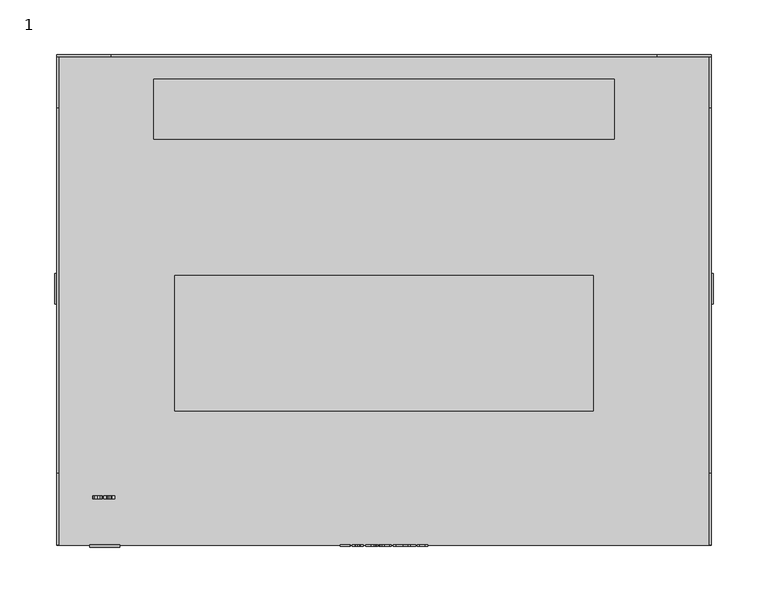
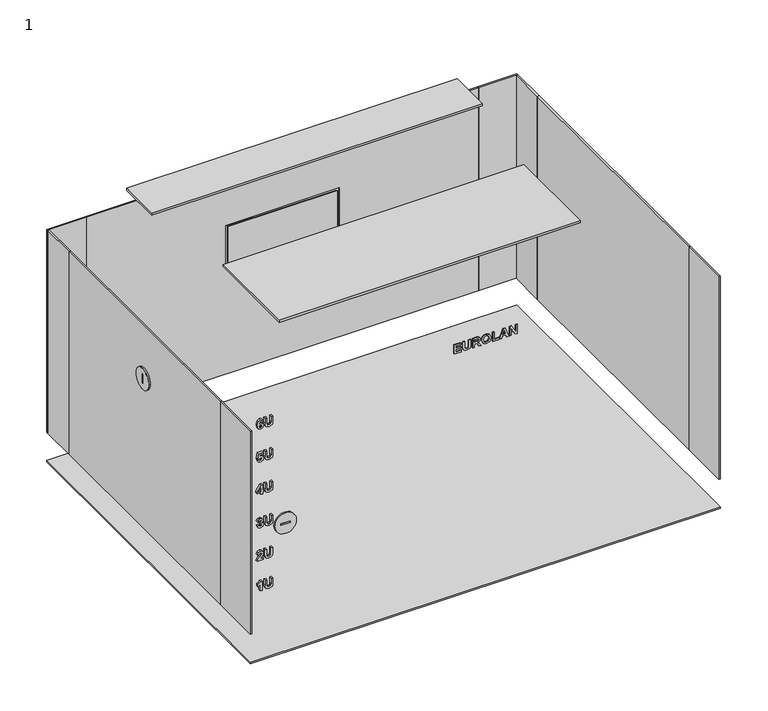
"""IFC4 building model written with IfcOpenShell, lengths in millimetres: proxy geometry, 1 : 6U 450мм металлическая дверь."""

from ifc_helpers import new_model, si_unit, point, frame, frame_2d, origin, origin_with_axes, place, context, project, spatial, polyline, circle_curve, trimmed, segment, composite_curve, outline, extrude, source, transform, mapped, element, save


def proxy_1_44ba977f(model_context):
    return source(origin(), model_context, "Body", "SweptSolid", [
        extrude(outline(polyline([(328.0, -40.3245382), (328.0, -30.9964522), (330.1376864, -30.9964522), (330.1376864, -37.9925167), (333.2470483, -37.9925167), (333.2470483, -31.5794576), (335.3847347, -31.5794576), (335.3847347, -37.9925167), (338.1054264, -37.9925167), (338.1054264, -31.1907874), (340.2431128, -31.1907874), (340.2431128, -40.3245382), (328.0, -40.3245382)])), frame((0.0, -226.0, 0.0), z_axis=(0.0, 1.0, 0.0), x_axis=(0.0, 0.0, 1.0)), (0.0, 0.0, 1.0), 1.0),
        extrude(outline(polyline([(340.2431128, -29.053101), (333.7207402, -29.053101), (330.6174512, -28.8071456), (329.2601418, -28.1026808), (328.2095176, -26.6482039), (327.8056649, -23.9487675), (328.1761162, -21.5575346), (329.173602, -20.0954664), (330.7085458, -19.3454543), (333.8209443, -19.1420097), (340.2431128, -19.1420097), (340.2431128, -21.4740312), (333.4960402, -21.4740312), (331.4236383, -21.5924541), (330.3714958, -22.2923642), (329.9433512, -24.0216432), (330.3973059, -25.7979877), (331.5982363, -26.6208755), (333.6387551, -26.7210795), (340.2431128, -26.7210795), (340.2431128, -29.053101)])), frame((0.0, -226.0, 0.0), z_axis=(0.0, 1.0, 0.0), x_axis=(0.0, 0.0, 1.0)), (0.0, 0.0, 1.0), 1.0),
        extrude(outline(polyline([(328.0, -16.8099882), (328.0, -14.4779667), (333.0527132, -13.9435451), (332.9251808, -12.6120459), (332.4560437, -11.8164865), (330.7966039, -10.4242575), (328.0, -8.6509495), (328.0, -5.9272213), (330.3745323, -7.424209), (332.3512849, -8.7238252), (333.3715443, -9.9475291), (334.5071902, -7.6625732), (336.7936644, -6.8988969), (338.7339791, -7.4272455), (339.9121358, -8.8361752), (340.2431128, -11.6601074), (340.2431128, -16.8099882), (328.0, -16.8099882)]), holes=[polyline([(335.1903996, -14.4779667), (338.1054264, -14.4779667), (338.1054264, -12.4495939), (338.0659521, -10.5548264), (337.6150339, -9.5770778), (336.6782779, -9.2309184), (335.817434, -9.4935744), (335.3315962, -10.2223312), (335.1903996, -12.5558709), (335.1903996, -14.4779667)])]), frame((0.0, -226.0, 0.0), z_axis=(0.0, 1.0, 0.0), x_axis=(0.0, 0.0, 1.0)), (0.0, 0.0, 1.0), 1.0),
        extrude(outline(polyline([(334.0456442, -4.9555457), (329.4681411, -3.3735363), (327.8056649, 0.8896905), (329.4757323, 5.1225524), (334.106374, 6.7045618), (338.7628257, 5.1104065), (340.4374479, 0.8593256), (339.9546466, -1.7338337), (338.8539203, -3.2869964), (337.1792981, -4.4059416), (334.0456442, -4.9555457)]), holes=[polyline([(334.1306659, -2.6235242), (337.2612832, -1.6579215), (338.2997616, 0.886654), (337.2734292, 3.4190836), (334.1640672, 4.3725403), (330.9985302, 3.3932735), (329.9433512, 0.886654), (331.0061214, -1.6321114), (334.1306659, -2.6235242)])]), frame((0.0, -226.0, 0.0), z_axis=(0.0, 1.0, 0.0), x_axis=(0.0, 0.0, 1.0)), (0.0, 0.0, 1.0), 1.0),
        extrude(outline(polyline([(328.0, 8.647913), (328.0, 17.1986585), (330.1376864, 17.1986585), (330.1376864, 10.9799345), (340.2431128, 10.9799345), (340.2431128, 8.647913), (328.0, 8.647913)])), frame((0.0, -226.0, 0.0), z_axis=(0.0, 1.0, 0.0), x_axis=(0.0, 0.0, 1.0)), (0.0, 0.0, 1.0), 1.0),
        extrude(outline(polyline([(328.0, 29.2474361), (340.2431128, 24.7352175), (340.2431128, 22.2513717), (328.0, 17.7816638), (328.0, 20.2655096), (330.7206917, 21.2128934), (330.7206917, 25.837462), (328.0, 26.7969917), (328.0, 29.2474361)]), holes=[polyline([(332.8583781, 25.0904864), (332.8583781, 21.959869), (337.3280859, 23.51455), (332.8583781, 25.0904864)])]), frame((0.0, -226.0, 0.0), z_axis=(0.0, 1.0, 0.0), x_axis=(0.0, 0.0, 1.0)), (0.0, 0.0, 1.0), 1.0),
        extrude(outline(polyline([(328.0, 30.4134469), (328.0, 32.7454684), (336.1195644, 32.7454684), (328.0, 37.8042546), (328.0, 40.3245382), (340.2431128, 40.3245382), (340.2431128, 37.9925167), (332.002089, 37.9925167), (340.2431128, 32.8578184), (340.2431128, 30.4134469), (328.0, 30.4134469)])), frame((0.0, -226.0, 0.0), z_axis=(0.0, 1.0, 0.0), x_axis=(0.0, 0.0, 1.0)), (0.0, 0.0, 1.0), 1.0),
        extrude(outline(composite_curve([segment(trimmed(circle_curve(frame_2d((9.997621, 243.4611412)), 14.0), [point((-4.002379, 243.4611412))], [point((23.997621, 243.4611412))], False, "CARTESIAN"), True, "CONTINUOUS"), segment(trimmed(circle_curve(frame_2d((9.997621, 243.4611412)), 14.0), [point((23.997621, 243.4611412))], [point((-4.002379, 243.4611412))], False, "CARTESIAN"), True, "CONTINUOUS")], self_intersect=False), holes=[polyline([(11.0, 249.5), (9.0, 249.5), (9.0, 237.5), (11.0, 237.5), (11.0, 249.5)])]), frame((-302.0, 0.0, 0.0), z_axis=(1.0, 0.0, 0.0), x_axis=(0.0, 1.0, 0.0)), (0.0, 0.0, 1.0), 2.0),
        extrude(outline(composite_curve([segment(trimmed(circle_curve(frame_2d((9.997621, 243.4611412)), 14.0), [point((-4.002379, 243.4611412))], [point((23.997621, 243.4611412))], False, "CARTESIAN"), True, "CONTINUOUS"), segment(trimmed(circle_curve(frame_2d((9.997621, 243.4611412)), 14.0), [point((23.997621, 243.4611412))], [point((-4.002379, 243.4611412))], False, "CARTESIAN"), True, "CONTINUOUS")], self_intersect=False), holes=[polyline([(11.0, 249.5), (9.0, 249.5), (9.0, 237.5), (11.0, 237.5), (11.0, 249.5)])]), frame((300.0, 0.0, 0.0), z_axis=(1.0, 0.0, 0.0), x_axis=(0.0, 1.0, 0.0)), (0.0, 0.0, 1.0), 2.0),
        extrude(outline(composite_curve([segment(trimmed(circle_curve(frame_2d((176.0, -256.0)), 13.7647373), [point((176.0, -242.2352627))], [point((176.0, -269.7647373))], False, "CARTESIAN"), True, "CONTINUOUS"), segment(trimmed(circle_curve(frame_2d((176.0, -256.0)), 13.7647373), [point((176.0, -269.7647373))], [point((176.0, -242.2352627))], False, "CARTESIAN"), True, "CONTINUOUS")], self_intersect=False), holes=[polyline([(177.0, -250.0), (175.0, -250.0), (175.0, -262.0), (177.0, -262.0), (177.0, -250.0)])]), frame((0.0, -227.0, 0.0), z_axis=(0.0, 1.0, 0.0), x_axis=(0.0, 0.0, 1.0)), (0.0, 0.0, 1.0), 2.0),
        extrude(outline(polyline([(300.0, 225.0), (300.0, -225.0), (-300.0, -225.0), (-300.0, 225.0), (300.0, 225.0)])), origin_with_axes(), (0.0, 0.0, 1.0), 2.0),
        extrude(outline(polyline([(211.0, 202.5), (211.0, 147.5), (-211.0, 147.5), (-211.0, 202.5), (211.0, 202.5)])), frame((0.0, 0.0, 348.9795778), z_axis=(0.0, 0.0, 1.0), x_axis=(1.0, 0.0, 0.0)), (0.0, 0.0, 1.0), 3.0204222),
        extrude(outline(polyline([(192.0, 22.0), (192.0, -102.0), (-192.0, -102.0), (-192.0, 22.0), (192.0, 22.0)])), frame((0.0, 0.0, 348.9795778), z_axis=(0.0, 0.0, 1.0), x_axis=(1.0, 0.0, 0.0)), (0.0, 0.0, 1.0), 3.0204222),
        extrude(outline(polyline([(-69.5, 225.0), (69.5, 225.0), (69.5, 223.0), (-69.5, 223.0), (-69.5, 225.0)])), frame((0.0, 0.0, 189.0), z_axis=(0.0, 0.0, 1.0), x_axis=(1.0, 0.0, 0.0)), (0.0, 0.0, 1.0), 49.0),
        extrude(outline(polyline([(314.0, -250.0), (40.0, -250.0), (40.0, 250.0), (314.0, 250.0), (314.0, -250.0)]), holes=[polyline([(241.0, -72.5), (241.0, 72.5), (186.0, 72.5), (186.0, -72.5), (241.0, -72.5)])]), frame((0.0, 223.0, 0.0), z_axis=(0.0, 1.0, 0.0), x_axis=(0.0, 0.0, 1.0)), (0.0, 0.0, 1.0), 2.0),
        extrude(outline(polyline([(-300.0, 225.0), (-250.0, 225.0), (-250.0, 223.0), (-300.0, 223.0), (-300.0, 225.0)])), frame((0.0, 0.0, 40.0), z_axis=(0.0, 0.0, 1.0), x_axis=(1.0, 0.0, 0.0)), (0.0, 0.0, 1.0), 274.0),
        extrude(outline(polyline([(250.0, 225.0), (300.0, 225.0), (300.0, 223.0), (250.0, 223.0), (250.0, 225.0)])), frame((0.0, 0.0, 40.0), z_axis=(0.0, 0.0, 1.0), x_axis=(1.0, 0.0, 0.0)), (0.0, 0.0, 1.0), 274.0),
        extrude(outline(polyline([(-298.0, 175.8155315), (-298.0, -158.7095641), (-300.0, -158.7095641), (-300.0, 175.8155315), (-298.0, 175.8155315)])), frame((0.0, 0.0, 40.0), z_axis=(0.0, 0.0, 1.0), x_axis=(1.0, 0.0, 0.0)), (0.0, 0.0, 1.0), 274.0),
        extrude(outline(polyline([(-298.0, -158.7095641), (-298.0, -225.0), (-300.0, -225.0), (-300.0, -158.7095641), (-298.0, -158.7095641)])), frame((0.0, 0.0, 40.0), z_axis=(0.0, 0.0, 1.0), x_axis=(1.0, 0.0, 0.0)), (0.0, 0.0, 1.0), 274.0),
        extrude(outline(polyline([(-298.0, 225.0), (-298.0, 175.8155315), (-300.0, 175.8155315), (-300.0, 225.0), (-298.0, 225.0)])), frame((0.0, 0.0, 40.0), z_axis=(0.0, 0.0, 1.0), x_axis=(1.0, 0.0, 0.0)), (0.0, 0.0, 1.0), 274.0),
        extrude(outline(polyline([(300.0, 175.8155315), (300.0, -158.7095641), (298.0, -158.7095641), (298.0, 175.8155315), (300.0, 175.8155315)])), frame((0.0, 0.0, 40.0), z_axis=(0.0, 0.0, 1.0), x_axis=(1.0, 0.0, 0.0)), (0.0, 0.0, 1.0), 274.0),
        extrude(outline(polyline([(300.0, 225.0), (300.0, 175.8155315), (298.0, 175.8155315), (298.0, 225.0), (300.0, 225.0)])), frame((0.0, 0.0, 40.0), z_axis=(0.0, 0.0, 1.0), x_axis=(1.0, 0.0, 0.0)), (0.0, 0.0, 1.0), 274.0),
        extrude(outline(polyline([(300.0, -158.7095641), (300.0, -225.0), (298.0, -225.0), (298.0, -158.7095641), (300.0, -158.7095641)])), frame((0.0, 0.0, 40.0), z_axis=(0.0, 0.0, 1.0), x_axis=(1.0, 0.0, 0.0)), (0.0, 0.0, 1.0), 274.0),
        extrude(outline(polyline([(287.6111434, -258.8540615), (290.0281866, -259.9654155), (290.8601838, -262.1668681), (289.381415, -265.2473834), (284.5534017, -266.4331314), (279.8559574, -265.2974855), (278.4227359, -262.4006775), (279.5325716, -259.7073142), (282.4764451, -258.6597264), (285.2973409, -259.6845405), (286.390476, -262.1486492), (285.3671801, -264.2802626), (288.0772441, -263.6638558), (288.7224974, -262.4674802), (288.3900022, -261.5990451), (287.3621516, -261.186083), (287.6111434, -258.8540615)]), holes=[polyline([(282.5280654, -264.1011099), (283.8155356, -263.6532281), (284.2527896, -262.5585748), (283.7957984, -261.4396296), (282.3549856, -260.9917479), (280.9794573, -261.4077465), (280.5604222, -262.4462248), (281.0720702, -263.5970531), (282.5280654, -264.1011099)])]), frame((0.0, -182.6777479, 0.0), z_axis=(0.0, 1.0, 0.0), x_axis=(0.0, 0.0, 1.0)), (0.0, 0.0, 1.0), 3.0),
        extrude(outline(polyline([(290.8601838, -256.7163752), (284.3378112, -256.7163752), (281.2345222, -256.4704198), (279.8772128, -255.7659549), (278.8265886, -254.311478), (278.4227359, -251.6120417), (278.7931872, -249.2208087), (279.790673, -247.7587405), (281.3256168, -247.0087284), (284.4380153, -246.8052838), (290.8601838, -246.8052838), (290.8601838, -249.1373053), (284.1131112, -249.1373053), (282.0407093, -249.2557283), (280.9885668, -249.9556384), (280.5604222, -251.6849173), (281.0143769, -253.4612618), (282.2153073, -254.2841496), (284.2558261, -254.3843537), (290.8601838, -254.3843537), (290.8601838, -256.7163752)])), frame((0.0, -182.6777479, 0.0), z_axis=(0.0, 1.0, 0.0), x_axis=(0.0, 0.0, 1.0)), (0.0, 0.0, 1.0), 3.0),
        extrude(outline(polyline([(237.3503584, -266.4331314), (234.6964693, -265.1957632), (233.7096113, -262.522137), (235.2825112, -259.312571), (237.9029989, -258.4653913), (240.7679237, -259.4826142), (241.8716865, -261.960387), (241.3949581, -263.4634477), (243.6207026, -262.9927924), (243.6207026, -259.0483966), (245.9527241, -259.0483966), (245.9527241, -264.8784504), (239.0629366, -266.2387962), (238.7623245, -264.2164963), (239.7340001, -262.509991), (239.2633447, -261.2726229), (237.8513786, -260.7974128), (236.3467996, -261.3090607), (235.8472976, -262.5585748), (236.317953, -263.7002937), (237.5963138, -264.295445), (237.3503584, -266.4331314)])), frame((0.0, -182.6777479, 0.0), z_axis=(0.0, 1.0, 0.0), x_axis=(0.0, 0.0, 1.0)), (0.0, 0.0, 1.0), 3.0),
        extrude(outline(polyline([(246.1470592, -256.7163752), (239.6246866, -256.7163752), (236.5213976, -256.4704198), (235.1640882, -255.7659549), (234.113464, -254.311478), (233.7096113, -251.6120417), (234.0800626, -249.2208087), (235.0775484, -247.7587405), (236.6124922, -247.0087284), (239.7248907, -246.8052838), (246.1470592, -246.8052838), (246.1470592, -249.1373053), (239.3999866, -249.1373053), (237.3275847, -249.2557283), (236.2754422, -249.9556384), (235.8472976, -251.6849173), (236.3012523, -253.4612618), (237.5021827, -254.2841496), (239.5427015, -254.3843537), (246.1470592, -254.3843537), (246.1470592, -256.7163752)])), frame((0.0, -182.6777479, 0.0), z_axis=(0.0, 1.0, 0.0), x_axis=(0.0, 0.0, 1.0)), (0.0, 0.0, 1.0), 3.0),
        extrude(outline(polyline([(189.9283299, -262.1577586), (189.9283299, -259.8257371), (192.4546865, -259.8257371), (192.4546865, -258.2710562), (194.3980377, -258.2710562), (194.3980377, -259.8257371), (201.9771076, -259.8257371), (201.9771076, -261.848037), (194.3889283, -266.8218016), (192.4546865, -266.8218016), (192.4546865, -262.1577586), (189.9283299, -262.1577586)]), holes=[polyline([(194.3980377, -262.1577586), (194.3980377, -264.7630639), (198.3758348, -262.1577586), (194.3980377, -262.1577586)])]), frame((0.0, -182.6777479, 0.0), z_axis=(0.0, 1.0, 0.0), x_axis=(0.0, 0.0, 1.0)), (0.0, 0.0, 1.0), 3.0),
        extrude(outline(polyline([(202.1714427, -256.7163752), (195.6490701, -256.7163752), (192.5457811, -256.4704198), (191.1884717, -255.7659549), (190.1378475, -254.311478), (189.7339948, -251.6120417), (190.1044461, -249.2208087), (191.1019319, -247.7587405), (192.6368757, -247.0087284), (195.7492742, -246.8052838), (202.1714427, -246.8052838), (202.1714427, -249.1373053), (195.4243701, -249.1373053), (193.3519682, -249.2557283), (192.2998257, -249.9556384), (191.8716811, -251.6849173), (192.3256358, -253.4612618), (193.5265662, -254.2841496), (195.567085, -254.3843537), (202.1714427, -254.3843537), (202.1714427, -256.7163752)])), frame((0.0, -182.6777479, 0.0), z_axis=(0.0, 1.0, 0.0), x_axis=(0.0, 0.0, 1.0)), (0.0, 0.0, 1.0), 3.0),
        extrude(outline(polyline([(148.35045, -266.4331314), (145.734517, -265.2200551), (144.7339948, -262.5859032), (145.859013, -259.7847446), (148.5781864, -258.6597264), (150.4562532, -259.294352), (151.4567755, -260.9887114), (154.0286794, -259.2427318), (156.0691982, -260.0565101), (157.1714427, -262.6739613), (156.773663, -264.3971673), (155.6820462, -265.5965794), (153.8282713, -266.2387962), (153.4790753, -263.9067747), (154.6374949, -263.4892579), (155.0337563, -262.6587789), (154.6921516, -261.8708107), (153.776651, -261.5747533), (152.6956619, -261.9710147), (152.3130646, -263.1203248), (150.3909688, -263.3237694), (150.5640485, -262.397641), (150.0812472, -261.4001553), (148.7725216, -260.9917479), (147.3863656, -261.4381114), (146.8716811, -262.5403559), (147.3210811, -263.5757977), (148.6206973, -264.1011099), (148.35045, -266.4331314)])), frame((0.0, -182.6777479, 0.0), z_axis=(0.0, 1.0, 0.0), x_axis=(0.0, 0.0, 1.0)), (0.0, 0.0, 1.0), 3.0),
        extrude(outline(polyline([(157.1714427, -256.7163752), (150.6490701, -256.7163752), (147.5457811, -256.4704198), (146.1884717, -255.7659549), (145.1378475, -254.311478), (144.7339948, -251.6120417), (145.1044461, -249.2208087), (146.1019319, -247.7587405), (147.6368757, -247.0087284), (150.7492742, -246.8052838), (157.1714427, -246.8052838), (157.1714427, -249.1373053), (150.4243701, -249.1373053), (148.3519682, -249.2557283), (147.2998257, -249.9556384), (146.8716811, -251.6849173), (147.3256358, -253.4612618), (148.5265662, -254.2841496), (150.567085, -254.3843537), (157.1714427, -254.3843537), (157.1714427, -256.7163752)])), frame((0.0, -182.6777479, 0.0), z_axis=(0.0, 1.0, 0.0), x_axis=(0.0, 0.0, 1.0)), (0.0, 0.0, 1.0), 3.0),
        extrude(outline(polyline([(103.3014708, -258.8246798), (103.9391329, -262.7326376), (105.2660774, -261.4011384), (106.7964665, -259.9512162), (108.3298921, -259.094927), (109.8724272, -258.8246798), (112.2545507, -259.8115378), (113.2125621, -262.5261566), (112.3577912, -265.1527172), (109.5384137, -266.4037496), (109.3258596, -264.0717281), (110.6695048, -263.6223281), (111.0748758, -262.5777768), (110.6634319, -261.5347438), (109.4837569, -261.1567012), (108.0809003, -261.6061012), (106.1254031, -263.4097741), (103.2574418, -265.8541456), (100.9694493, -266.5980847), (100.9694493, -258.8246798), (103.3014708, -258.8246798)])), frame((0.0, -182.6777479, 0.0), z_axis=(0.0, 1.0, 0.0), x_axis=(0.0, 0.0, 1.0)), (0.0, 0.0, 1.0), 3.0),
        extrude(outline(polyline([(113.2125621, -256.8813285), (106.6901895, -256.8813285), (103.5869005, -256.6353731), (102.2295911, -255.9309083), (101.1789669, -254.4764314), (100.7751142, -251.776995), (101.1455655, -249.3857621), (102.1430513, -247.9236939), (103.6779951, -247.1736818), (106.7903936, -246.9702372), (113.2125621, -246.9702372), (113.2125621, -249.3022587), (106.4654895, -249.3022587), (104.3930876, -249.4206817), (103.3409451, -250.1205917), (102.9128006, -251.8498707), (103.3667553, -253.6262152), (104.5676856, -254.449103), (106.6082044, -254.549307), (113.2125621, -254.549307), (113.2125621, -256.8813285)])), frame((0.0, -182.6777479, 0.0), z_axis=(0.0, 1.0, 0.0), x_axis=(0.0, 0.0, 1.0)), (0.0, 0.0, 1.0), 3.0),
        extrude(outline(polyline([(59.9283299, -260.6030776), (72.1714427, -260.6030776), (72.1714427, -262.4614073), (70.2053178, -263.9037383), (69.0620807, -265.850126), (66.7300592, -265.850126), (68.6794834, -262.9350991), (59.9283299, -262.9350991), (59.9283299, -260.6030776)])), frame((0.0, -182.6777479, 0.0), z_axis=(0.0, 1.0, 0.0), x_axis=(0.0, 0.0, 1.0)), (0.0, 0.0, 1.0), 3.0),
        extrude(outline(polyline([(72.1714427, -256.7163752), (65.6490701, -256.7163752), (62.5457811, -256.4704198), (61.1884717, -255.7659549), (60.1378475, -254.311478), (59.7339948, -251.6120417), (60.1044461, -249.2208087), (61.1019319, -247.7587405), (62.6368757, -247.0087284), (65.7492742, -246.8052838), (72.1714427, -246.8052838), (72.1714427, -249.1373053), (65.4243701, -249.1373053), (63.3519682, -249.2557283), (62.2998257, -249.9556384), (61.8716811, -251.6849173), (62.3256358, -253.4612618), (63.5265662, -254.2841496), (65.567085, -254.3843537), (72.1714427, -254.3843537), (72.1714427, -256.7163752)])), frame((0.0, -182.6777479, 0.0), z_axis=(0.0, 1.0, 0.0), x_axis=(0.0, 0.0, 1.0)), (0.0, 0.0, 1.0), 3.0),
    ])


if __name__ == "__main__":
    model = new_model("IFC4")
    model_context = context("Model", 3, world=origin())
    ifc_project = project(units=[si_unit("LENGTHUNIT", "METRE", prefix="MILLI")], contexts=[model_context])
    site = spatial("IfcSite", under=ifc_project)
    building = spatial("IfcBuilding", under=site)
    placement = place(None, origin())
    proxy_1_shape = proxy_1_44ba977f(model_context)
    element("IfcBuildingElementProxy", 1, Name="1 : 6U 450мм металлическая дверь", ObjectType="1 : 6U 450мм металлическая дверь", at=placement, inside=building, context=model_context, shape_type="MappedRepresentation", body=[
        mapped(proxy_1_shape, transform((0.0, 0.0, 0.0), x_axis=(1.0, 0.0, 0.0), y_axis=(0.0, 1.0, 0.0), z_axis=(0.0, 0.0, 1.0))),
    ])
    save(model, "model.ifc")
